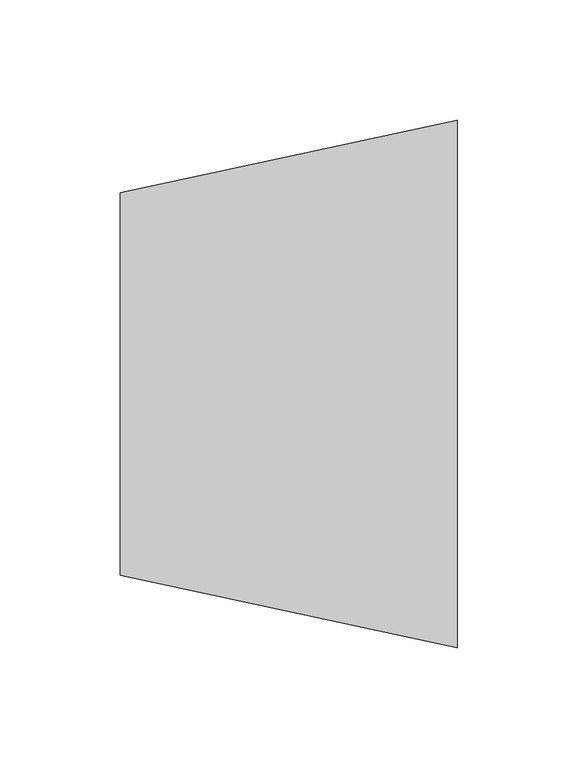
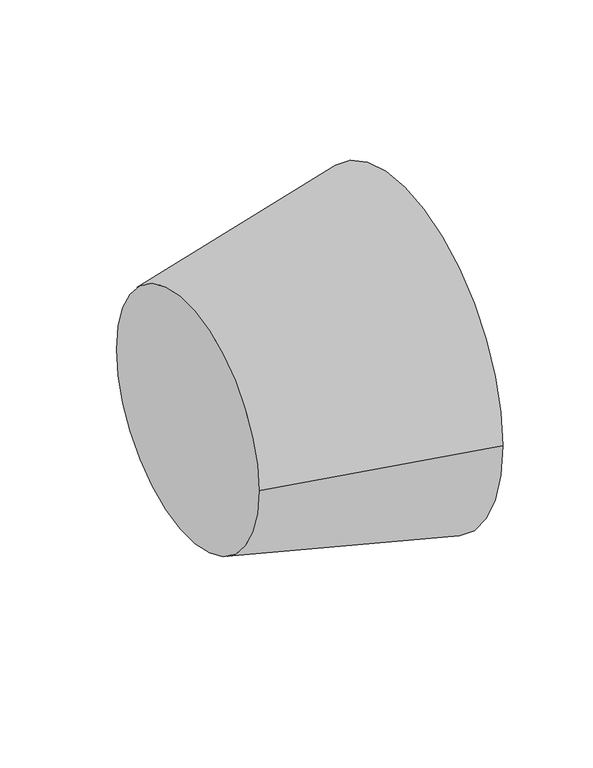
"""IFC4 building model written with IfcOpenShell, lengths in millimetres: pipe fitting geometry, ADSK_ДетальСтальнаяСварная_Переход_ГОСТ17378-2001 : Исполнение 2."""

import ifcopenshell
import ifcopenshell.guid

model = None  # the IFC model being written
_history = None  # IfcOwnerHistory: only IFC2X3 demands one
_inside = {}  # id of a spatial element -> (the spatial element, [elements in it])
_under = {}  # id of a project, library or spatial element -> (it, [spatial elements below it])
_declared = {}  # id of a project -> (the project, [libraries it declares])
_typed = {}  # id of a type object -> (the type object, [elements of that type])
_made_of = {}  # id of a material, layer set ... -> (it, [elements and type objects made of it])


def new_model(schema):
    """Start an empty IFC model of exactly this schema.

    Asked for "IFC4X3", IfcOpenShell would pick the latest addendum, in which some entities
    have other attributes; the version numbers below select the first issue.
    IFC2X3 requires an IfcOwnerHistory on every rooted entity: one is made here for all.
    """
    global model, _history
    if schema == "IFC4X3":
        model = ifcopenshell.file(schema_version=(4, 3, 0, 0))
    else:
        model = ifcopenshell.file(schema=schema)
    _inside.clear()
    _under.clear()
    _declared.clear()
    _typed.clear()
    _made_of.clear()
    _history = None
    if model.schema == "IFC2X3":
        org = make("IfcOrganization", Name="unknown")
        user = make(
            "IfcPersonAndOrganization",
            ThePerson=make("IfcPerson", FamilyName="unknown"),
            TheOrganization=org,
        )
        app = make(
            "IfcApplication",
            ApplicationDeveloper=org,
            Version="unknown",
            ApplicationFullName="unknown",
            ApplicationIdentifier="unknown",
        )
        _history = make(
            "IfcOwnerHistory",
            OwningUser=user,
            OwningApplication=app,
            ChangeAction="ADDED",
            CreationDate=0,
        )
    return model


def make(cls, **values):
    """One entity of the class cls with the attributes given. An attribute that is None is left unset."""
    return model.create_entity(
        cls, **{name: value for name, value in values.items() if value is not None}
    )


def rooted(cls, **values):
    """An entity with a GlobalId (a new one), such as an element, a storey or a relation."""
    return make(cls, GlobalId=ifcopenshell.guid.new(), OwnerHistory=_history, **values)


def si_unit(unit_type, name, prefix=None):
    """IfcSIUnit, for example si_unit("LENGTHUNIT", "METRE", prefix="MILLI")."""
    return make("IfcSIUnit", UnitType=unit_type, Prefix=prefix, Name=name)


def assignment(units):
    """IfcUnitAssignment: the units of a project."""
    return None if units is None else make("IfcUnitAssignment", Units=units)


def point(xyz):
    """IfcCartesianPoint."""
    return None if xyz is None else make("IfcCartesianPoint", Coordinates=xyz)


def direction(xyz):
    """IfcDirection."""
    return None if xyz is None else make("IfcDirection", DirectionRatios=xyz)


def frame(location, z_axis=None, x_axis=None):
    """IfcAxis2Placement3D, a coordinate frame: its origin and axes. An axis left out is left unset."""
    return make(
        "IfcAxis2Placement3D",
        Location=point(location),
        Axis=direction(z_axis),
        RefDirection=direction(x_axis),
    )


def origin():
    """The frame at (0, 0, 0) with its axes left unset."""
    return frame((0.0, 0.0, 0.0))


def place(relative_to, where):
    """IfcLocalPlacement: puts the frame where relative to a parent placement (None: the world)."""
    return make(
        "IfcLocalPlacement", PlacementRelTo=relative_to, RelativePlacement=where
    )


def context(
    kind, dimensions, precision=None, world=None, true_north=None, identifier=None
):
    """IfcGeometricRepresentationContext, for example the 3D "Model" context."""
    return make(
        "IfcGeometricRepresentationContext",
        ContextIdentifier=identifier,
        ContextType=kind,
        CoordinateSpaceDimension=dimensions,
        Precision=precision,
        WorldCoordinateSystem=world,
        TrueNorth=true_north,
    )


def project(units=None, contexts=None):
    """IfcProject with its units and contexts."""
    return rooted(
        "IfcProject",
        Name="project",
        RepresentationContexts=contexts,
        UnitsInContext=assignment(units),
    )


def spatial(cls, under=None, at=None, **own):
    """A site, building, storey or space (cls), placed at a placement, below another one or the project."""
    s = rooted(cls, ObjectPlacement=at, **own)
    if under is not None:
        _under.setdefault(under.id(), (under, []))[1].append(s)
    return s


def polyline(points):
    """IfcPolyline through the points."""
    return make("IfcPolyline", Points=[point(p) for p in points])


def circle_curve(where, radius):
    """IfcCircle in the frame where."""
    return make("IfcCircle", Position=where, Radius=radius)


def shape(context_of_items, identifier, shape_type, items):
    """IfcShapeRepresentation: the items that make up one representation, for example the "Body"."""
    return make(
        "IfcShapeRepresentation",
        ContextOfItems=context_of_items,
        RepresentationIdentifier=identifier,
        RepresentationType=shape_type,
        Items=items,
    )


def source(mapping_origin, context_of_items, identifier, shape_type, items):
    """IfcRepresentationMap: a shape defined once, which mapped items show again and again."""
    return make(
        "IfcRepresentationMap",
        MappingOrigin=mapping_origin,
        MappedRepresentation=shape(context_of_items, identifier, shape_type, items),
    )


def transform(
    local_origin,
    x_axis=None,
    y_axis=None,
    z_axis=None,
    scale=None,
    scale2=None,
    scale3=None,
    uniform=True,
):
    """IfcCartesianTransformationOperator3D, or its non-uniform kind. x_axis, y_axis, z_axis: its Axis1, 2, 3."""
    if uniform:
        return make(
            "IfcCartesianTransformationOperator3D",
            Axis1=direction(x_axis),
            Axis2=direction(y_axis),
            LocalOrigin=point(local_origin),
            Scale=scale,
            Axis3=direction(z_axis),
        )
    return make(
        "IfcCartesianTransformationOperator3DnonUniform",
        Axis1=direction(x_axis),
        Axis2=direction(y_axis),
        LocalOrigin=point(local_origin),
        Scale=scale,
        Axis3=direction(z_axis),
        Scale2=scale2,
        Scale3=scale3,
    )


def mapped(mapping_source, mapping_target):
    """IfcMappedItem: shows the shape of a source again, moved by a transform."""
    return make(
        "IfcMappedItem", MappingSource=mapping_source, MappingTarget=mapping_target
    )


def made_of(thing, what):
    """Note that an element or type object is made of a material, layer set ...; save() writes the relation."""
    if what is not None:
        _made_of.setdefault(what.id(), (what, []))[1].append(thing)
    return thing


def element(
    cls,
    number,
    at=None,
    inside=None,
    cuts=None,
    type_object=None,
    material=None,
    context=None,
    identifier="Body",
    shape_type=None,
    held_by="IfcProductDefinitionShape",
    body=None,
    shapes=None,
    **own,
):
    """One element of the class cls, such as IfcWall. Its Tag is "e" and its number.

    at: its placement. inside: the storey or other place that contains it. cuts: it is an
    opening in that element (IfcRelVoidsElement). A single representation is given by context,
    identifier, shape_type and body (its items); several are given by shapes. held_by: the class
    of the entity that holds the representations. save() writes the other relations.
    """
    e = rooted(cls, Tag="e%d" % number, ObjectPlacement=at, **own)
    if body is not None:
        shapes = [shape(context, identifier, shape_type, body)]
    if shapes is not None:
        e.Representation = make(held_by, Representations=shapes)
    if inside is not None:
        _inside.setdefault(inside.id(), (inside, []))[1].append(e)
    if cuts is not None:
        rooted(
            "IfcRelVoidsElement", RelatingBuildingElement=cuts, RelatedOpeningElement=e
        )
    if type_object is not None:
        _typed.setdefault(type_object.id(), (type_object, []))[1].append(e)
    return made_of(e, material)


def aggregate(whole, parts):
    """IfcRelAggregates: a whole, such as a stair, and the parts it consists of."""
    return rooted("IfcRelAggregates", RelatingObject=whole, RelatedObjects=parts)


def save(model, path):
    """Write the relations noted so far, then the file.

    IfcRelAggregates (storeys below a building ...), IfcRelContainedInSpatialStructure (elements
    in a storey), IfcRelDefinesByType, IfcRelAssociatesMaterial and IfcRelDeclares: one each for
    every whole, place, type object, material and project.
    """
    for whole, parts in _under.values():
        aggregate(whole, parts)
    for where, things in _inside.values():
        rooted(
            "IfcRelContainedInSpatialStructure",
            RelatedElements=things,
            RelatingStructure=where,
        )
    for kind, things in _typed.values():
        rooted("IfcRelDefinesByType", RelatedObjects=things, RelatingType=kind)
    for what, things in _made_of.values():
        rooted("IfcRelAssociatesMaterial", RelatedObjects=things, RelatingMaterial=what)
    for by, libraries in _declared.values():
        rooted("IfcRelDeclares", RelatingContext=by, RelatedDefinitions=libraries)
    model.write(path)


def plane_surface(at):
    """IfcPlane: the flat surface through the origin of the frame at, square to its z axis."""
    return make("IfcPlane", Position=at)


def revolved_surface(curve, axis_point, axis_direction):
    """IfcSurfaceOfRevolution: the curve turned about the line through axis_point along axis_direction."""
    return make(
        "IfcSurfaceOfRevolution",
        SweptCurve=make("IfcArbitraryOpenProfileDef", ProfileType="CURVE", Curve=curve),
        AxisPosition=make("IfcAxis1Placement", Location=point(axis_point), Axis=direction(axis_direction)),
    )


def advanced_brep(points, edges, surfaces, faces):
    """IfcAdvancedBrep: a solid bounded by faces that lie on surfaces and meet in shared edges.

    An edge is (start, end): straight between two places in points (the first is 0);
    or (start, end, curve); or (start, end, curve, False) where it runs against its curve.
    A face is (place in surfaces, loops), or (place, loops, False) where it looks against
    its surface's normal. A loop lists edges by number (the first is 1), with a minus sign
    where the edge is run from its end to its start. The first loop is the outer one.
    """
    corners = [point(p) for p in points]
    vertices = [make("IfcVertexPoint", VertexGeometry=c) for c in corners]
    made = []
    for start, end, *more in edges:
        made.append(
            make(
                "IfcEdgeCurve",
                EdgeStart=vertices[start],
                EdgeEnd=vertices[end],
                EdgeGeometry=more[0] if more else make("IfcPolyline", Points=[corners[start], corners[end]]),
                SameSense=more[1] if len(more) > 1 else True,
            )
        )
    hull = []
    for where, loops, *sense in faces:
        bounds = []
        for j, loop in enumerate(loops):
            ring = [make("IfcOrientedEdge", EdgeElement=made[abs(k) - 1], Orientation=k > 0) for k in loop]
            bounds.append(
                make(
                    "IfcFaceOuterBound" if j == 0 else "IfcFaceBound",
                    Bound=make("IfcEdgeLoop", EdgeList=ring),
                    Orientation=True,
                )
            )
        hull.append(make("IfcAdvancedFace", Bounds=bounds, FaceSurface=surfaces[where], SameSense=sense[0] if sense else True))
    return make("IfcAdvancedBrep", Outer=make("IfcClosedShell", CfsFaces=hull))


def pipe_fitting_033f5acd(model_context):
    return source(origin(), model_context, "Body", "AdvancedBrep", [
        advanced_brep(
        [(140.0, -109.5, 0.0), (140.0, 109.5, 0.0), (0.0, -79.5, 0.0), (0.0, 79.5, 0.0)],
        [
            (0, 1, circle_curve(frame((140.0, 0.0, 0.0), z_axis=(1.0, 0.0, 0.0), x_axis=(0.0, -1.0, 0.0)), 109.5)),
            (1, 0, circle_curve(frame((140.0, 0.0, 0.0), z_axis=(1.0, 0.0, 0.0), x_axis=(0.0, 1.0, 0.0)), 109.5)),
            (2, 3, circle_curve(frame((0.0, 0.0, 0.0), z_axis=(-1.0, 0.0, 0.0), x_axis=(0.0, 1.0, 0.0)), 79.5)),
            (3, 2, circle_curve(frame((0.0, 0.0, 0.0), z_axis=(-1.0, 0.0, 0.0), x_axis=(0.0, -1.0, 0.0)), 79.5)),
            (3, 1),
            (0, 2),
        ],
        [
            plane_surface(frame((140.0, 0.0, 0.0), z_axis=(1.0, 0.0, 0.0), x_axis=(0.0, 0.0, -1.0))),
            plane_surface(frame((0.0, 0.0, 0.0), z_axis=(-1.0, 0.0, 0.0), x_axis=(0.0, 0.0, -1.0))),
            revolved_surface(polyline([(0.0, 79.5, 0.0), (140.0, 109.5, 0.0)]), (-371.0, 0.0, 0.0), (1.0, 0.0, 0.0)),
            revolved_surface(polyline([(0.0, -79.5, 0.0), (140.0, -109.5, 0.0)]), (-371.0, 0.0, 0.0), (1.0, 0.0, 0.0)),
        ],
        [
            (0, [[1, 2]]),
            (1, [[3, 4]]),
            (2, [[-4, 5, -1, 6]]),
            (3, [[-3, -6, -2, -5]]),
        ],
    ),
    ])


if __name__ == "__main__":
    model = new_model("IFC4")
    model_context = context("Model", 3, world=origin())
    ifc_project = project(units=[si_unit("LENGTHUNIT", "METRE", prefix="MILLI")], contexts=[model_context])
    site = spatial("IfcSite", under=ifc_project)
    building = spatial("IfcBuilding", under=site)
    placement = place(None, origin())
    pipe_fitting_shape = pipe_fitting_033f5acd(model_context)
    element("IfcPipeFitting", 1, ObjectType="ADSK_ДетальСтальнаяСварная_Переход_ГОСТ17378-2001 : Исполнение 2", at=placement, inside=building, context=model_context, shape_type="MappedRepresentation", body=[
        mapped(pipe_fitting_shape, transform((0.0, 0.0, 0.0), x_axis=(1.0, 0.0, 0.0), y_axis=(0.0, 1.0, 0.0), z_axis=(0.0, 0.0, 1.0))),
    ])
    save(model, "model.ifc")
